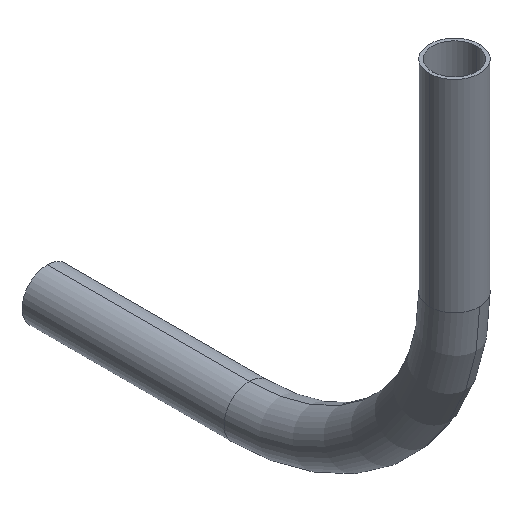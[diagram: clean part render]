
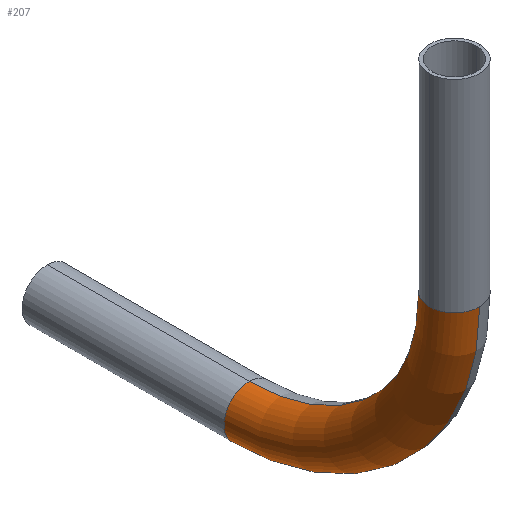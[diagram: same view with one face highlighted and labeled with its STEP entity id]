
A CAD part, isometric view. The second image highlights one B-rep face of the part: STEP entity #207.
In plain terms, the highlighted toroidal (fillet/blend) face has major radius 130 mm and minor radius 16 mm.
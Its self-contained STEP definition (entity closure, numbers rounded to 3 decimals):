
#9 = AXIS2_PLACEMENT_3D ( 'NONE', #217, #17, #166 ) ;
#14 = DIRECTION ( 'NONE',  ( 0., 0., -1. ) ) ;
#15 = ORIENTED_EDGE ( 'NONE', *, *, #315, .F. ) ;
#17 = DIRECTION ( 'NONE',  ( 1., 0., 0. ) ) ;
#24 = DIRECTION ( 'NONE',  ( 0., 0., 1. ) ) ;
#30 = EDGE_CURVE ( 'NONE', #201, #447, #388, .T. ) ;
#45 = DIRECTION ( 'NONE',  ( 1., 0., 0. ) ) ;
#57 = AXIS2_PLACEMENT_3D ( 'NONE', #71, #155, #296 ) ;
#71 = CARTESIAN_POINT ( 'NONE',  ( 0., 0., -70. ) ) ;
#89 = VERTEX_POINT ( 'NONE', #243 ) ;
#113 = ORIENTED_EDGE ( 'NONE', *, *, #30, .F. ) ;
#127 = CARTESIAN_POINT ( 'NONE',  ( 0., 130., -184. ) ) ;
#129 = ORIENTED_EDGE ( 'NONE', *, *, #272, .F. ) ;
#130 = DIRECTION ( 'NONE',  ( 0., -1., 0. ) ) ;
#139 = VERTEX_POINT ( 'NONE', #215 ) ;
#143 = EDGE_CURVE ( 'NONE', #201, #283, #364, .T. ) ;
#146 = TOROIDAL_SURFACE ( 'NONE', #445, 130., 16. ) ;
#155 = DIRECTION ( 'NONE',  ( 0., 0., 1. ) ) ;
#161 = CIRCLE ( 'NONE', #414, 16. ) ;
#166 = DIRECTION ( 'NONE',  ( 0., 0., -1. ) ) ;
#176 = CARTESIAN_POINT ( 'NONE',  ( 0., 130., -200. ) ) ;
#201 = VERTEX_POINT ( 'NONE', #410 ) ;
#207 = ADVANCED_FACE ( 'NONE', ( #232 ), #146, .T. ) ;
#215 = CARTESIAN_POINT ( 'NONE',  ( 0., -16., -70. ) ) ;
#217 = CARTESIAN_POINT ( 'NONE',  ( 0., 130., -70. ) ) ;
#220 = AXIS2_PLACEMENT_3D ( 'NONE', #391, #24, #314 ) ;
#229 = CIRCLE ( 'NONE', #432, 146. ) ;
#232 = FACE_OUTER_BOUND ( 'NONE', #368, .T. ) ;
#243 = CARTESIAN_POINT ( 'NONE',  ( 0., 130., -216. ) ) ;
#266 = ORIENTED_EDGE ( 'NONE', *, *, #143, .T. ) ;
#272 = EDGE_CURVE ( 'NONE', #447, #139, #274, .T. ) ;
#274 = CIRCLE ( 'NONE', #57, 16. ) ;
#283 = VERTEX_POINT ( 'NONE', #127 ) ;
#286 = CARTESIAN_POINT ( 'NONE',  ( 0., 130., -70. ) ) ;
#296 = DIRECTION ( 'NONE',  ( 1., 0., 0. ) ) ;
#314 = DIRECTION ( 'NONE',  ( 1., 0., 0. ) ) ;
#315 = EDGE_CURVE ( 'NONE', #139, #89, #229, .T. ) ;
#319 = DIRECTION ( 'NONE',  ( 0., 0., -1. ) ) ;
#333 = DIRECTION ( 'NONE',  ( 1., 0., 0. ) ) ;
#346 = EDGE_CURVE ( 'NONE', #283, #89, #161, .T. ) ;
#355 = ORIENTED_EDGE ( 'NONE', *, *, #346, .T. ) ;
#357 = CARTESIAN_POINT ( 'NONE',  ( -16., 0., -70. ) ) ;
#359 = CARTESIAN_POINT ( 'NONE',  ( 0., 130., -70. ) ) ;
#364 = CIRCLE ( 'NONE', #9, 114. ) ;
#365 = DIRECTION ( 'NONE',  ( 1., 0., 0. ) ) ;
#368 = EDGE_LOOP ( 'NONE', ( #15, #129, #113, #266, #355 ) ) ;
#388 = CIRCLE ( 'NONE', #220, 16. ) ;
#391 = CARTESIAN_POINT ( 'NONE',  ( 0., 0., -70. ) ) ;
#410 = CARTESIAN_POINT ( 'NONE',  ( 0., 16., -70. ) ) ;
#414 = AXIS2_PLACEMENT_3D ( 'NONE', #176, #130, #45 ) ;
#432 = AXIS2_PLACEMENT_3D ( 'NONE', #286, #333, #14 ) ;
#445 = AXIS2_PLACEMENT_3D ( 'NONE', #359, #365, #319 ) ;
#447 = VERTEX_POINT ( 'NONE', #357 ) ;
